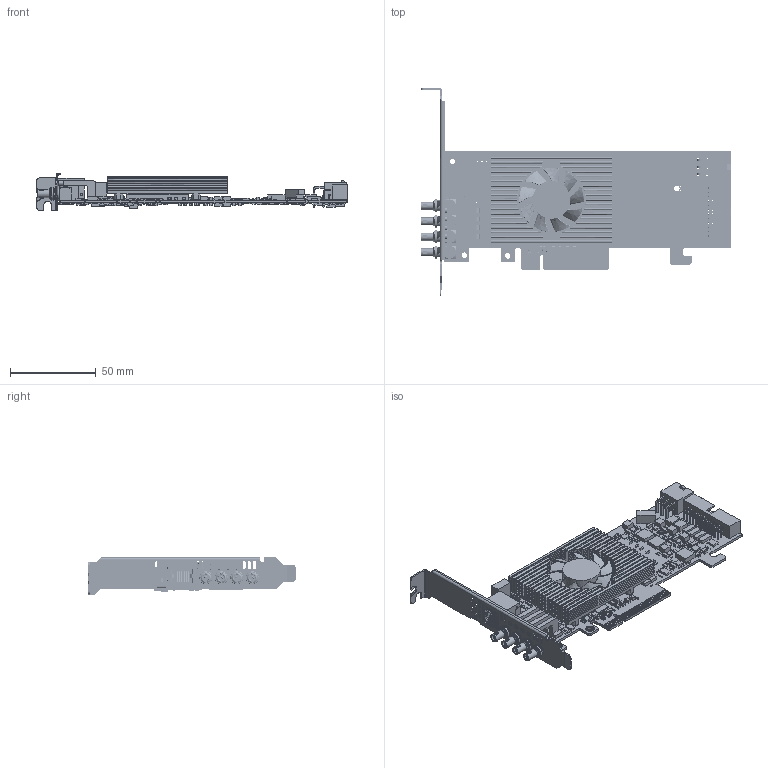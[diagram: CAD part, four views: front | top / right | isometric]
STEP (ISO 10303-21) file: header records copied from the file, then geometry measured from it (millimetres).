
FILE_DESCRIPTION(/* description */ (''),/* implementation_level */ '2;1');
FILE_NAME(/* name */ 'flex io quad cxp12_rev_a1 0302.stp',/* time_stamp */ '2023-06-06T11:24:33+08:00',/* author */ (''),/* organization */ (''),/* preprocessor_version */ 'ST-DEVELOPER v16.7',/* originating_system */ 'SIEMENS PLM Software NX 12.0',/* authorisation */ '');
FILE_SCHEMA (('AP203_CONFIGURATION_CONTROLLED_3D_DESIGN_OF_MECHANICAL_PARTS_AND_ASSEMBLIES_MIM_LF { 1 0 10303 403 2 1 2}'));
Products named in the file (1): zw447C34A9rfj3
Bounding box: 180.8 x 120.82 x 21.59 mm (x, y, z)
Volume: 53017.6 mm3; surface area: 81809.6 mm2
Topology: 1236 solids, 1236 shells, 11468 faces, 26067 edges, 17127 vertices
Faces by surface type: plane 9621, cylinder 1006, extrusion 504, bspline 233, sphere 80, cone 12, torus 12
Full cylindrical faces by diameter (mm): 0.3 x4, 0.5 x8, 0.53 x4, 1.3 x16, 1.4 x8, 1.7 x4, 2 x5, 2.8 x4, 3 x9, 3.6 x4, 4.5 x4, 5.9 x4, 6 x4, 7 x4, 7.55 x4, 14.113 x1, 22 x1
Entity records: 416907 total; most frequent: CARTESIAN_POINT 99623, ORIENTED_EDGE 51644, DIRECTION 48035, EDGE_CURVE 25822, VECTOR 22669, LINE 22165, VERTEX_POINT 17086, AXIS2_PLACEMENT_3D 12683
